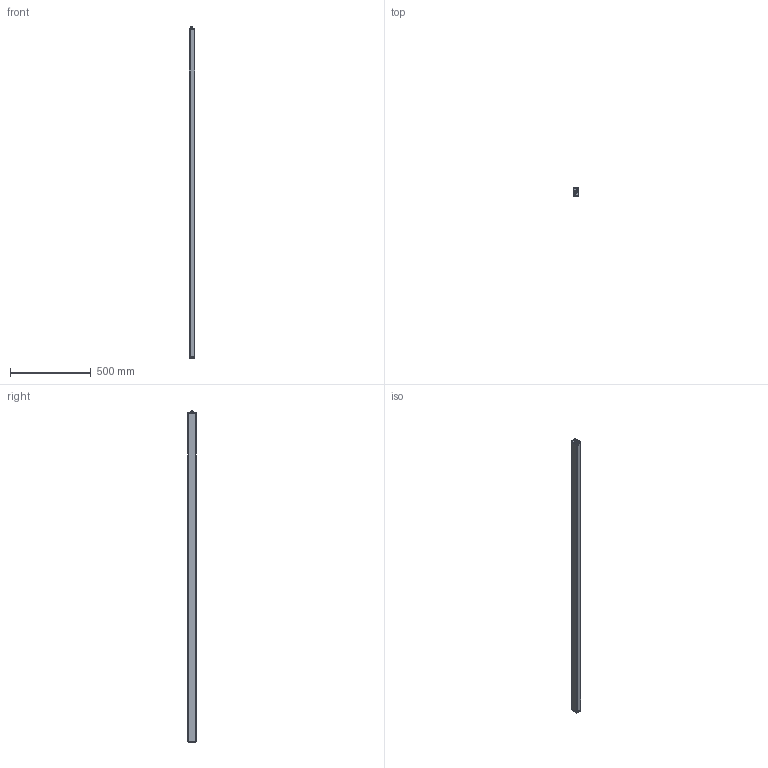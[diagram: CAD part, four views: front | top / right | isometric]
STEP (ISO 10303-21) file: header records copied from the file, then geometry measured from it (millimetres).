
FILE_DESCRIPTION (( 'STEP AP214' ), '1' );
FILE_NAME ('EFFI-FLEX-BL-CPT-2000-ZZZ.STEP', '2023-12-22T13:28:07', ( '' ), ( '' ), 'SwSTEP 2.0', 'SolidWorks 2023', '' );
FILE_SCHEMA (( 'AUTOMOTIVE_DESIGN' ));
Length unit declared in the file: millimetre
Products named in the file (6): 000566; 000447-PLEIN; 001113; EFFI-FLEX-BL-CPT-2000-ZZZ; 000454; 000453
Assembly tree (20 placements, depth 2):
  EFFI-FLEX-BL-CPT-2000-ZZZ
    000447-PLEIN
    000453
    000566  x16
    000454
    001113
Bounding box: 37.1 x 50 x 2053.98 mm (x, y, z)
Volume: 3464523 mm3; surface area: 663210.5 mm2
Topology: 23 solids, 23 shells, 1398 faces, 3568 edges, 2322 vertices
Faces by surface type: plane 712, cylinder 322, bspline 242, cone 85, torus 29, sphere 8
Full cylindrical faces by diameter (mm): 1.5 x5, 2.05 x8, 2.17 x4, 2.6 x1, 2.7 x16, 2.9 x3, 4.5 x16, 4.7 x16, 8 x1, 8.35 x1, 10.3 x1, 11 x1, 13.3 x1, 16 x1, 20.2 x1
Entity records: 40360 total; most frequent: CARTESIAN_POINT 15176, ORIENTED_EDGE 5292, DIRECTION 4774, EDGE_CURVE 2646, VERTEX_POINT 1790, VECTOR 1660, LINE 1660, AXIS2_PLACEMENT_3D 1557
